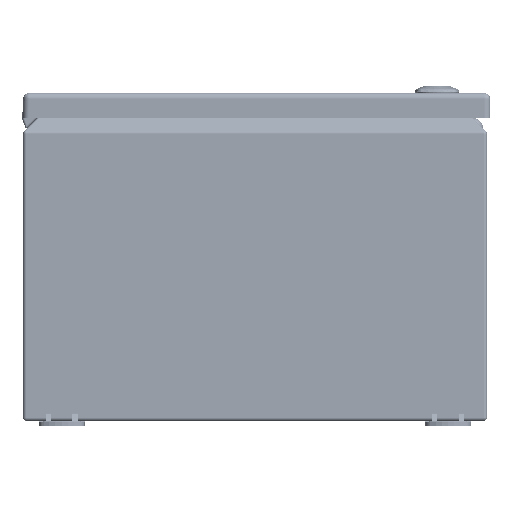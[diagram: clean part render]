
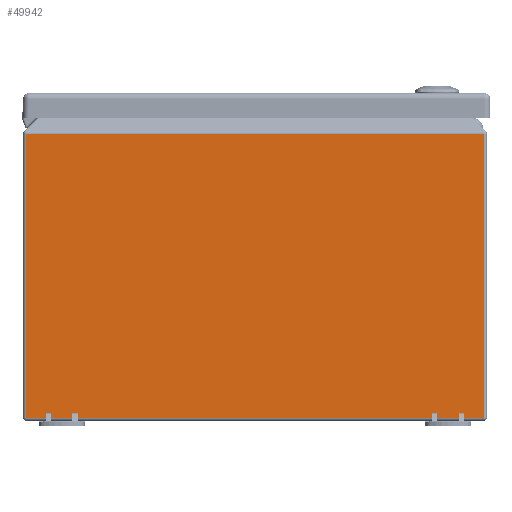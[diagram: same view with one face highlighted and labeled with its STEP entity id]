
A CAD part, front view. The second image highlights one B-rep face of the part: STEP entity #49942.
In plain terms, the highlighted planar face has unit normal (0, -1, 0).
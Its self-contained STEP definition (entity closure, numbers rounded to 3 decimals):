
#6357=FACE_OUTER_BOUND('',#9486,.T.);
#9486=EDGE_LOOP('',(#33743,#33744,#33745,#33746));
#12843=LINE('',#73163,#16778);
#12845=LINE('',#73176,#16780);
#12846=LINE('',#73180,#16781);
#12847=LINE('',#73181,#16782);
#16778=VECTOR('',#59134,0.394);
#16780=VECTOR('',#59152,0.394);
#16781=VECTOR('',#59157,0.394);
#16782=VECTOR('',#59158,0.394);
#20713=VERTEX_POINT('',#73160);
#20714=VERTEX_POINT('',#73162);
#20717=VERTEX_POINT('',#73175);
#20718=VERTEX_POINT('',#73179);
#25643=EDGE_CURVE('',#20713,#20714,#12843,.T.);
#25650=EDGE_CURVE('',#20714,#20717,#12845,.T.);
#25652=EDGE_CURVE('',#20718,#20713,#12846,.T.);
#25653=EDGE_CURVE('',#20717,#20718,#12847,.T.);
#33743=ORIENTED_EDGE('',*,*,#25643,.F.);
#33744=ORIENTED_EDGE('',*,*,#25652,.F.);
#33745=ORIENTED_EDGE('',*,*,#25653,.F.);
#33746=ORIENTED_EDGE('',*,*,#25650,.F.);
#48573=PLANE('',#53888);
#49942=ADVANCED_FACE('',(#6357),#48573,.F.);
#53888=AXIS2_PLACEMENT_3D('',#73178,#59155,#59156);
#59134=DIRECTION('',(0.,0.,1.));
#59152=DIRECTION('',(1.,0.,0.));
#59155=DIRECTION('center_axis',(0.,1.,0.));
#59156=DIRECTION('ref_axis',(0.,0.,1.));
#59157=DIRECTION('',(-1.,0.,0.));
#59158=DIRECTION('',(0.,0.,-1.));
#73160=CARTESIAN_POINT('',(-5.916,-8.,0.084));
#73162=CARTESIAN_POINT('',(-5.916,-8.,7.437));
#73163=CARTESIAN_POINT('',(-5.916,-8.,4.056));
#73175=CARTESIAN_POINT('',(5.916,-8.,7.437));
#73176=CARTESIAN_POINT('',(0.,-8.,7.437));
#73178=CARTESIAN_POINT('Origin',(0.,-8.,3.736));
#73179=CARTESIAN_POINT('',(5.916,-8.,0.084));
#73180=CARTESIAN_POINT('',(0.,-8.,0.084));
#73181=CARTESIAN_POINT('',(5.916,-8.,4.035));
